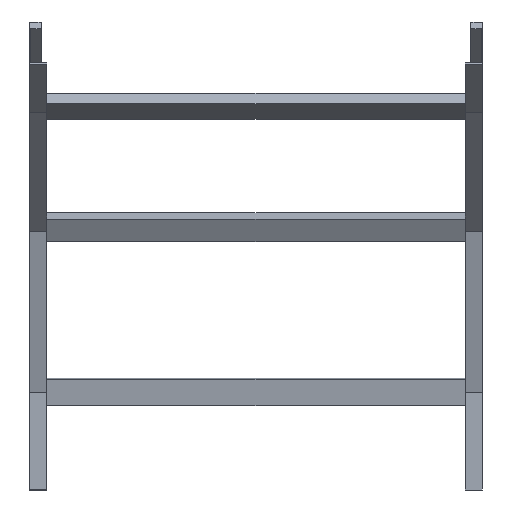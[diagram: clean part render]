
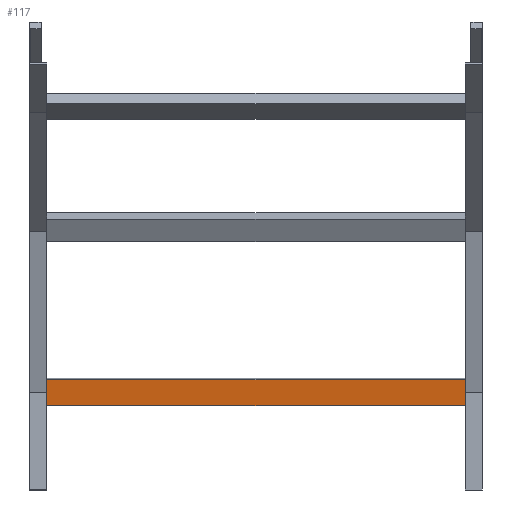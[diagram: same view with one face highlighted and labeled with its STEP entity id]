
A CAD part, front view. The second image highlights one B-rep face of the part: STEP entity #117.
In plain terms, the highlighted planar face has unit normal (0, -0.991, -0.131) as drawn and (0, -1, 0) by its records, which use the part's own axes.
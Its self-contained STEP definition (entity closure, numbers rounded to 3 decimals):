
#34 = VERTEX_POINT ( 'NONE', #542 ) ;
#54 = LINE ( 'NONE', #1398, #70 ) ;
#56 = EDGE_CURVE ( 'NONE', #74, #524, #1627, .T. ) ;
#70 = VECTOR ( 'NONE', #724, 1000. ) ;
#74 = VERTEX_POINT ( 'NONE', #1373 ) ;
#104 = FACE_OUTER_BOUND ( 'NONE', #856, .T. ) ;
#117 = ADVANCED_FACE ( 'NONE', ( #104 ), #1243, .F. ) ;
#211 = CARTESIAN_POINT ( 'NONE',  ( 348., 0., 20.25 ) ) ;
#300 = EDGE_CURVE ( 'NONE', #524, #34, #54, .T. ) ;
#343 = DIRECTION ( 'NONE',  ( 0., 0., -1. ) ) ;
#524 = VERTEX_POINT ( 'NONE', #1269 ) ;
#542 = CARTESIAN_POINT ( 'NONE',  ( -348., 0., -20.25 ) ) ;
#548 = CARTESIAN_POINT ( 'NONE',  ( 348., 0., 20.25 ) ) ;
#578 = CARTESIAN_POINT ( 'NONE',  ( -348., 0., 20.25 ) ) ;
#612 = LINE ( 'NONE', #1096, #733 ) ;
#651 = ORIENTED_EDGE ( 'NONE', *, *, #660, .T. ) ;
#660 = EDGE_CURVE ( 'NONE', #1070, #34, #612, .T. ) ;
#724 = DIRECTION ( 'NONE',  ( -1., 0., 0. ) ) ;
#733 = VECTOR ( 'NONE', #1629, 1000. ) ;
#818 = ORIENTED_EDGE ( 'NONE', *, *, #300, .F. ) ;
#856 = EDGE_LOOP ( 'NONE', ( #651, #818, #1230, #1141 ) ) ;
#1070 = VERTEX_POINT ( 'NONE', #578 ) ;
#1096 = CARTESIAN_POINT ( 'NONE',  ( -348., 0., 20.25 ) ) ;
#1141 = ORIENTED_EDGE ( 'NONE', *, *, #1322, .T. ) ;
#1151 = DIRECTION ( 'NONE',  ( 0., 1., 0. ) ) ;
#1207 = VECTOR ( 'NONE', #1241, 1000. ) ;
#1230 = ORIENTED_EDGE ( 'NONE', *, *, #56, .F. ) ;
#1235 = AXIS2_PLACEMENT_3D ( 'NONE', #548, #1151, #1643 ) ;
#1241 = DIRECTION ( 'NONE',  ( -1., 0., 0. ) ) ;
#1243 = PLANE ( 'NONE',  #1235 ) ;
#1269 = CARTESIAN_POINT ( 'NONE',  ( 348., 0., -20.25 ) ) ;
#1319 = VECTOR ( 'NONE', #343, 1000. ) ;
#1322 = EDGE_CURVE ( 'NONE', #74, #1070, #1383, .T. ) ;
#1373 = CARTESIAN_POINT ( 'NONE',  ( 348., 0., 20.25 ) ) ;
#1383 = LINE ( 'NONE', #211, #1207 ) ;
#1398 = CARTESIAN_POINT ( 'NONE',  ( 348., 0., -20.25 ) ) ;
#1481 = CARTESIAN_POINT ( 'NONE',  ( 348., 0., 20.25 ) ) ;
#1627 = LINE ( 'NONE', #1481, #1319 ) ;
#1629 = DIRECTION ( 'NONE',  ( 0., 0., -1. ) ) ;
#1643 = DIRECTION ( 'NONE',  ( 0., 0., 1. ) ) ;
